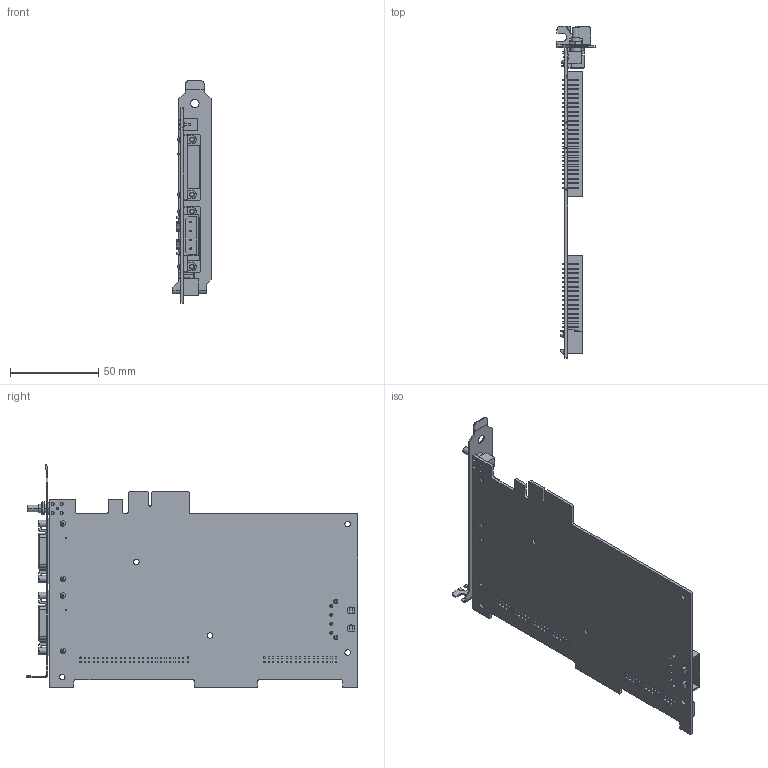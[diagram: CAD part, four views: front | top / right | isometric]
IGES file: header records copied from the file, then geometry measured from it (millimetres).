
Start section:  PTC IGES file: cu_pcie-1473r.igs
Global section: file name: cu_pcie-1473r.igs; native system: Pro/ENGINEER by Parametric Technology Corporation; preprocessor: 2011490; author: dkendric; organization: Unknown; date: 20130920.121744; units: inch
Bounding box: 21.59 x 188.15 x 126.34 mm (x, y, z)
Surface area: 52412.6 mm2 (no closed solid volume)
Topology: 0 solids, 0 shells, 2076 faces, 11348 edges, 11348 vertices
Faces by surface type: bspline 1637, revolution 439
